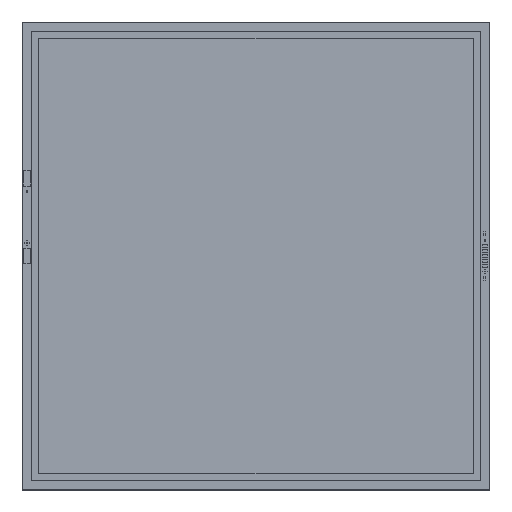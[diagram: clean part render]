
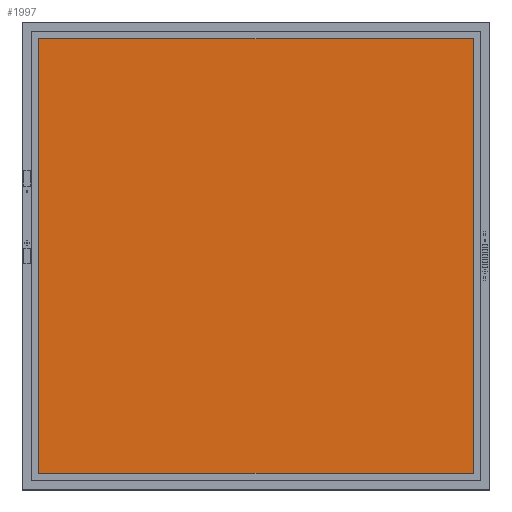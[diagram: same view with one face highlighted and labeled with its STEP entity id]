
A CAD part, top view. The second image highlights one B-rep face of the part: STEP entity #1997.
In plain terms, the highlighted planar face has unit normal (0, 0, 1).
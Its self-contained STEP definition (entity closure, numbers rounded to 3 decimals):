
#241=FACE_OUTER_BOUND($,#359,.T.);
#359=EDGE_LOOP($,(#1784,#1785,#1786,#1787));
#602=LINE($,#3125,#854);
#605=LINE($,#3131,#857);
#608=LINE($,#3137,#860);
#611=LINE($,#3141,#863);
#854=VECTOR($,#2578,111.8);
#857=VECTOR($,#2583,111.8);
#860=VECTOR($,#2588,111.8);
#863=VECTOR($,#2593,111.8);
#1026=VERTEX_POINT($,#3122);
#1027=VERTEX_POINT($,#3124);
#1029=VERTEX_POINT($,#3130);
#1031=VERTEX_POINT($,#3136);
#1274=EDGE_CURVE($,#1027,#1026,#602,.T.);
#1277=EDGE_CURVE($,#1029,#1027,#605,.T.);
#1280=EDGE_CURVE($,#1031,#1029,#608,.T.);
#1283=EDGE_CURVE($,#1026,#1031,#611,.T.);
#1784=ORIENTED_EDGE($,*,*,#1283,.T.);
#1785=ORIENTED_EDGE($,*,*,#1280,.T.);
#1786=ORIENTED_EDGE($,*,*,#1277,.T.);
#1787=ORIENTED_EDGE($,*,*,#1274,.T.);
#1892=PLANE($,#2117);
#1997=ADVANCED_FACE($,(#241),#1892,.T.);
#2117=AXIS2_PLACEMENT_3D($,#3143,#2596,#2597);
#2578=DIRECTION($,(0.,1.,0.));
#2583=DIRECTION($,(1.,0.,0.));
#2588=DIRECTION($,(0.,-1.,0.));
#2593=DIRECTION($,(-1.,0.,0.));
#2596=DIRECTION('center_axis',(0.,0.,1.));
#2597=DIRECTION('ref_axis',(1.,0.,0.));
#3122=CARTESIAN_POINT('',(55.9,55.9,0.26));
#3124=CARTESIAN_POINT('',(55.9,-55.9,0.26));
#3125=CARTESIAN_POINT($,(55.9,55.9,0.26));
#3130=CARTESIAN_POINT('',(-55.9,-55.9,0.26));
#3131=CARTESIAN_POINT($,(55.9,-55.9,0.26));
#3136=CARTESIAN_POINT('',(-55.9,55.9,0.26));
#3137=CARTESIAN_POINT($,(-55.9,-55.9,0.26));
#3141=CARTESIAN_POINT($,(-55.9,55.9,0.26));
#3143=CARTESIAN_POINT('Origin',(0.,0.,
0.26));
